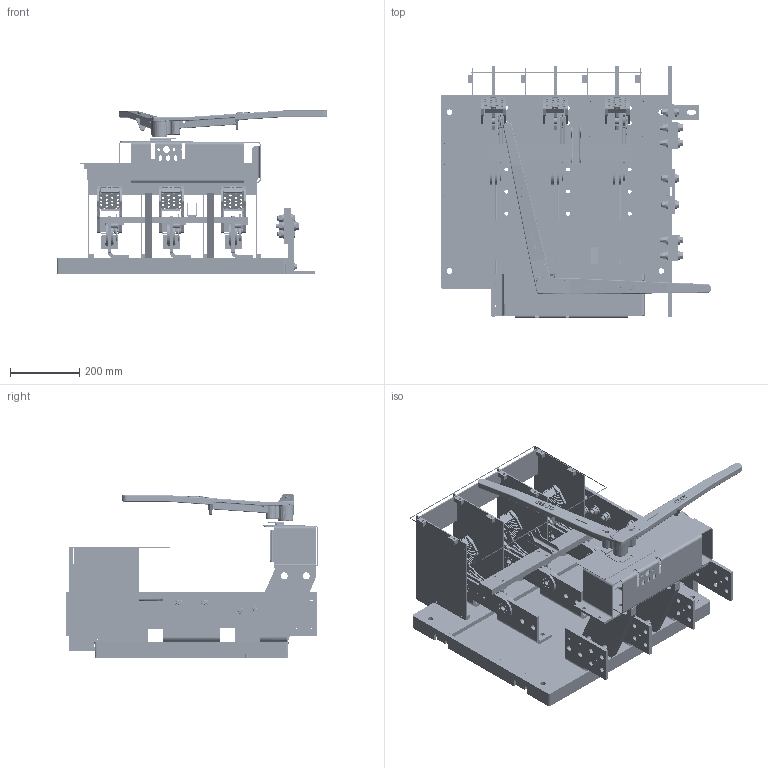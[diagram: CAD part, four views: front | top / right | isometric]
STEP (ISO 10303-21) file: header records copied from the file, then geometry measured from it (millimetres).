
FILE_DESCRIPTION(/* description */ (''),/* implementation_level */ '2;1');
FILE_NAME(/* name */ 'H:\switches\3d-templates\catalog-switches-iges-files\CATALOG-VL469N.stp',/* time_stamp */ '2022-03-23T14:16:12-05:00',/* author */ ('MKingston'),/* organization */ (''),/* preprocessor_version */ 'ST-DEVELOPER v18.1',/* originating_system */ 'Autodesk Inventor 2022',/* authorisation */ '');
FILE_SCHEMA (('CONFIG_CONTROL_DESIGN','AUTOMOTIVE_DESIGN { 1 0 10303 214 3 1 1 }'));
Products named in the file (55): vl369; 277; 668-D; 668-C; 668-E; catalog-56-qj-arcchute-assy; 363-da; 363-da_MIR; 50-QLX; 50-QRX; 56-QJS; 57-QJSB; 57-QJST; catalog-vl369-blade-assy; 67-AL; 67-AR; 67-fc3; 67-gc3; 67-M; 67-j; ANSI/ASME B18.7 - T 0.252 x 17/32; ANSI/ASME B18.7 - T 0.188 x 17/32; 235-b; 230-a; 246-a; 820-bw1; 820-fw3; 255-z; 67-ZBA; 221-RP,R3; 255-bha; 255-c; 178-c; 1600-VL-NEUTRAL-NO-GFI; 675-a; 675-df; 676-l; 677-f; 678-r; Bolted Connection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
Assembly tree (138 placements, depth 4):
  vl369
    277
    668-D  x3
    668-C  x3
    668-E  x3
    catalog-56-qj-arcchute-assy  x3
      363-da
      363-da_MIR
      50-QLX
      50-QRX
      56-QJS
      57-QJSB
      57-QJST
    catalog-vl369-blade-assy  x3
      67-AL
      67-AR
      67-fc3
      67-gc3
      67-j
      67-M
      ANSI/ASME B18.7 - T 0.252 x 17/32
      ANSI/ASME B18.7 - T 0.188 x 17/32
    235-b
    230-a
    255-bha  x4
    246-a  x2
    820-bw1
    820-fw3
    255-z
    67-ZBA  x3
    221-RP,R3
    255-c
    178-c  x8
    1600-VL-NEUTRAL-NO-GFI
      675-a  x2
      675-df  x2
      676-l  x2
      677-f
      678-r
      Bolted Connection
        ASTM F436 - 1/2, CW  x10
        ANSI B18.2.1 - 1/2-13 UNC - 1.75, HCSI  x5
        ASME B18.21.1 - 1/2, RHSLW  x5
        AS 2465 - 1/2  UNC  x5
      Bolted Connection_1
        ASTM F436 - 1/2, CW  x8
        ANSI B18.2.1 - 1/2-13 UNC - 2.25, HCSI  x4
        ASME B18.21.1 - 1/2, RHSLW  x4
        AS 2465 - 1/2  UNC  x4
    178-b  x8
    672-ha
    277-BP  x2
    Bolted Connection_2
      ASTM F436 - 3/8, CW  x4
      ANSI B18.2.1 - 3/8-16 UNC - 1.75, HCSI  x4
    223-FE
    223-d-transparent
    223-d-transparent-red
Bounding box: 779.35 x 726.77 x 469.37 mm (x, y, z)
Volume: 16171558.4 mm3; surface area: 4137045 mm2
Topology: 173 solids, 174 shells, 5437 faces, 13740 edges, 8975 vertices
Faces by surface type: plane 2767, cylinder 1434, cone 677, bspline 442, torus 105, sphere 12
Full cylindrical faces by diameter (mm): 1.702 x8, 3.175 x4, 3.302 x2, 3.454 x4, 3.683 x8, 3.759 x12, 3.962 x4, 4.305 x42, 4.496 x24, 4.762 x4, 4.775 x11, 4.801 x8, 4.902 x14, 4.915 x24, 4.978 x3, 5.556 x3, 5.791 x6, 6.35 x40, 6.401 x9, 6.528 x73, 7.144 x12, 7.798 x6, 7.938 x18, 8.077 x3, 8.331 x2, 8.731 x2, 9.525 x7, 9.601 x2, 9.804 x2, 9.906 x13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
Entity records: 98313 total; most frequent: CARTESIAN_POINT 25306, ORIENTED_EDGE 14670, DIRECTION 14458, EDGE_CURVE 7343, AXIS2_PLACEMENT_3D 5039, VERTEX_POINT 4813, LINE 4380, VECTOR 4380
